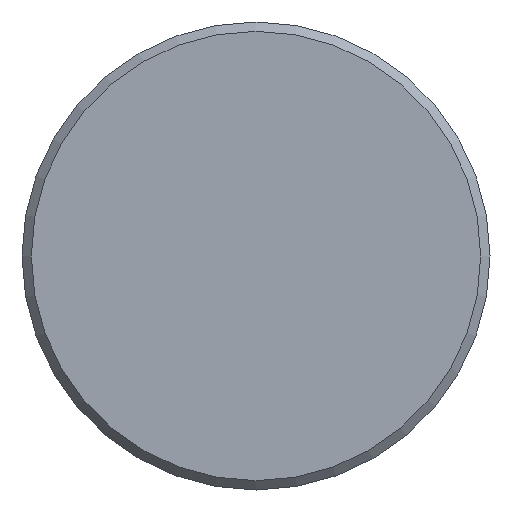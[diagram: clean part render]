
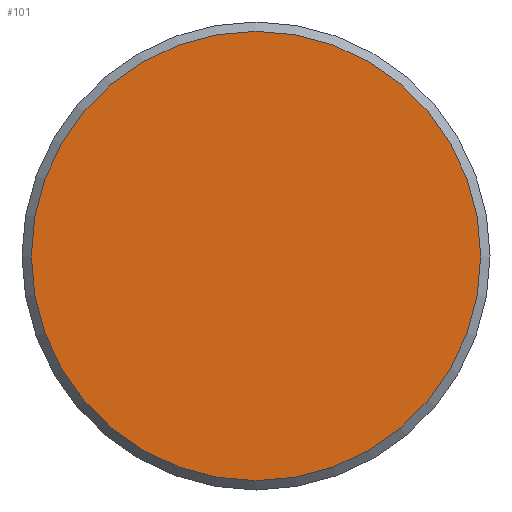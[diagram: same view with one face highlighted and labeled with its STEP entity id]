
A CAD part, front view. The second image highlights one B-rep face of the part: STEP entity #101.
In plain terms, the highlighted planar face has unit normal (0, -1, 0).
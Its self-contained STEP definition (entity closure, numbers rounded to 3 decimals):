
#55 = VERTEX_POINT('',#56);
#56 = CARTESIAN_POINT('',(-48.,0.,0.));
#64 = EDGE_CURVE('',#55,#55,#65,.T.);
#65 = CIRCLE('',#66,48.);
#66 = AXIS2_PLACEMENT_3D('',#67,#68,#69);
#67 = CARTESIAN_POINT('',(0.,0.,-0.));
#68 = DIRECTION('',(-0.,1.,0.));
#69 = DIRECTION('',(-1.,-0.,0.));
#101 = ADVANCED_FACE('',(#102),#105,.T.);
#102 = FACE_BOUND('',#103,.T.);
#103 = EDGE_LOOP('',(#104));
#104 = ORIENTED_EDGE('',*,*,#64,.F.);
#105 = PLANE('',#106);
#106 = AXIS2_PLACEMENT_3D('',#107,#108,#109);
#107 = CARTESIAN_POINT('',(0.,0.,0.));
#108 = DIRECTION('',(0.,-1.,0.));
#109 = DIRECTION('',(1.,0.,0.));
